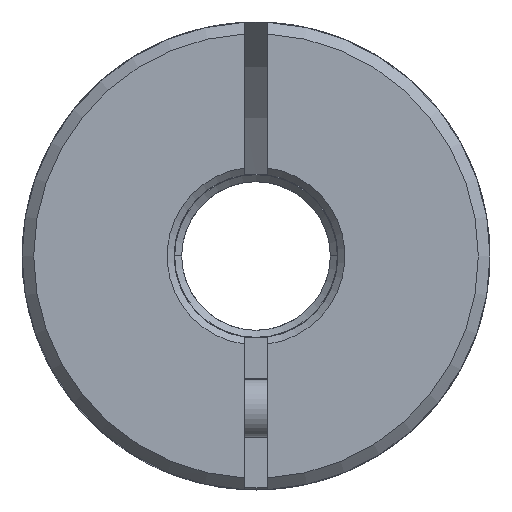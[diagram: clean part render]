
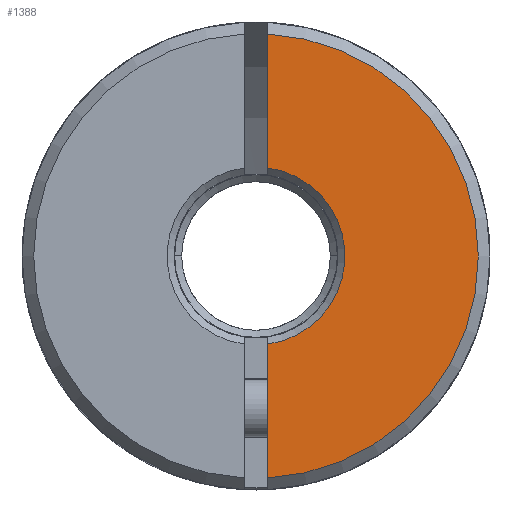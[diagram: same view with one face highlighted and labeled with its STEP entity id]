
A CAD part, front view. The second image highlights one B-rep face of the part: STEP entity #1388.
In plain terms, the highlighted planar face has unit normal (0, -1, 0).
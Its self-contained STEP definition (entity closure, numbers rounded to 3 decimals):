
#144 = ORIENTED_EDGE ( 'NONE', *, *, #1542, .F. ) ;
#1172 = VERTEX_POINT ( 'NONE', #8110 ) ;
#1359 = AXIS2_PLACEMENT_3D ( 'NONE', #9247, #9962, #6748 ) ;
#1388 = ADVANCED_FACE ( 'NONE', ( #5933 ), #9428, .F. ) ;
#1389 = ORIENTED_EDGE ( 'NONE', *, *, #4251, .T. ) ;
#1457 = EDGE_CURVE ( 'NONE', #9628, #1172, #8669, .T. ) ;
#1542 = EDGE_CURVE ( 'NONE', #9628, #4766, #10166, .T. ) ;
#1648 = DIRECTION ( 'NONE',  ( 0., 0., 1. ) ) ;
#1958 = VERTEX_POINT ( 'NONE', #2399 ) ;
#2046 = VECTOR ( 'NONE', #1648, 1000. ) ;
#2124 = DIRECTION ( 'NONE',  ( 0., 0., -1. ) ) ;
#2399 = CARTESIAN_POINT ( 'NONE',  ( 0.5, -33., 3.767 ) ) ;
#4142 = CARTESIAN_POINT ( 'NONE',  ( 0., -33., 0. ) ) ;
#4176 = DIRECTION ( 'NONE',  ( 0., 0., -1. ) ) ;
#4203 = VECTOR ( 'NONE', #9916, 1000. ) ;
#4251 = EDGE_CURVE ( 'NONE', #1958, #4766, #9779, .T. ) ;
#4631 = ORIENTED_EDGE ( 'NONE', *, *, #1457, .T. ) ;
#4766 = VERTEX_POINT ( 'NONE', #9825 ) ;
#4789 = CARTESIAN_POINT ( 'NONE',  ( 0.5, -33., -12.292 ) ) ;
#5151 = CARTESIAN_POINT ( 'NONE',  ( 0.5, -33., -9.487 ) ) ;
#5310 = ORIENTED_EDGE ( 'NONE', *, *, #6789, .F. ) ;
#5637 = LINE ( 'NONE', #4789, #2046 ) ;
#5933 = FACE_OUTER_BOUND ( 'NONE', #6500, .T. ) ;
#6500 = EDGE_LOOP ( 'NONE', ( #144, #4631, #5310, #1389 ) ) ;
#6724 = AXIS2_PLACEMENT_3D ( 'NONE', #8543, #7697, #2124 ) ;
#6748 = DIRECTION ( 'NONE',  ( 0., 0., -1. ) ) ;
#6789 = EDGE_CURVE ( 'NONE', #1958, #1172, #5637, .T. ) ;
#7697 = DIRECTION ( 'NONE',  ( 0., 1., 0. ) ) ;
#8059 = DIRECTION ( 'NONE',  ( 0., -1., 0. ) ) ;
#8110 = CARTESIAN_POINT ( 'NONE',  ( 0.5, -33., 9.487 ) ) ;
#8543 = CARTESIAN_POINT ( 'NONE',  ( 50., -33., -12.292 ) ) ;
#8669 = CIRCLE ( 'NONE', #9943, 9.5 ) ;
#8993 = CARTESIAN_POINT ( 'NONE',  ( 0.5, -33., -12.292 ) ) ;
#9247 = CARTESIAN_POINT ( 'NONE',  ( 0., -33., 0. ) ) ;
#9428 = PLANE ( 'NONE',  #6724 ) ;
#9628 = VERTEX_POINT ( 'NONE', #5151 ) ;
#9779 = CIRCLE ( 'NONE', #1359, 3.8 ) ;
#9825 = CARTESIAN_POINT ( 'NONE',  ( 0.5, -33., -3.767 ) ) ;
#9916 = DIRECTION ( 'NONE',  ( 0., 0., 1. ) ) ;
#9943 = AXIS2_PLACEMENT_3D ( 'NONE', #4142, #8059, #4176 ) ;
#9962 = DIRECTION ( 'NONE',  ( 0., 1., 0. ) ) ;
#10166 = LINE ( 'NONE', #8993, #4203 ) ;
